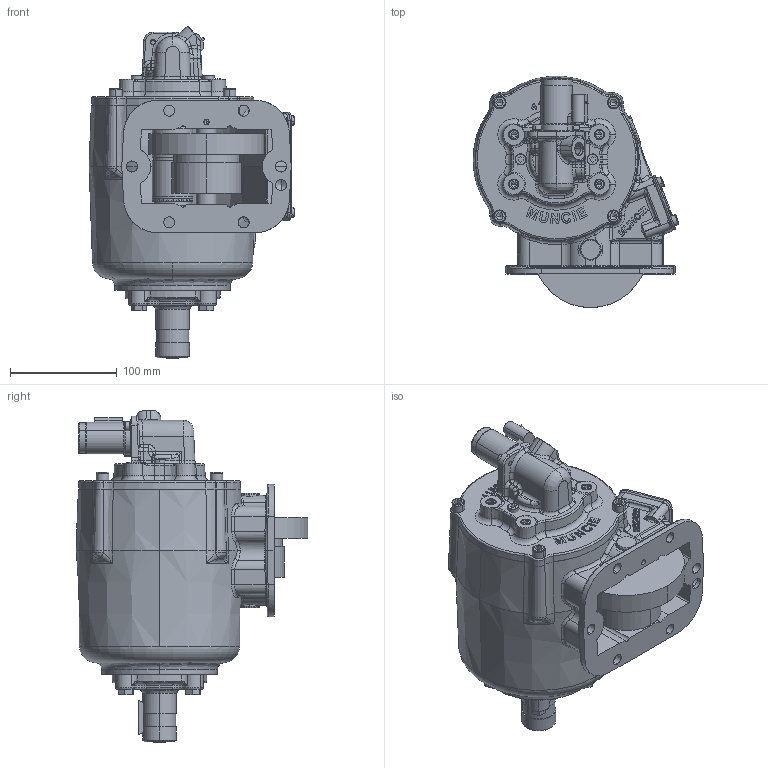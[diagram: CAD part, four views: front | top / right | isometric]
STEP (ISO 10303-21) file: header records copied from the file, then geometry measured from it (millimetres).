
FILE_DESCRIPTION (( 'STEP AP203' ), '1' );
FILE_NAME ('CS6S-A67XX-S1BP.STEP', '2015-04-24T19:15:27', ( '' ), ( '' ), 'SwSTEP 2.0', 'SolidWorks 2015', '' );
FILE_SCHEMA (( 'CONFIG_CONTROL_DESIGN' ));
Length unit declared in the file: millimetre
Products named in the file (26): 06t36892; 25T21684; 19T35237; Input Gear abstract (CS6-CS8); 15T41597; 10T21017; 15T41683; 19T41969; Output Shaft Sub Assembly; 11T37790; 35T40860; 12T36751; 15TA5220_Config1; 19T40859; 28T36546; 01T37073; CS6S-A67XX-S1BP; 19T34717; 07T37071; 16T41119; 26T01627; 12T35949; 19T41118; 19T36082; 27T36173_Free Length; 12T34003
Assembly tree (44 placements, depth 3):
  CS6S-A67XX-S1BP
    01T37073
    16T41119
    19T41118  x4
    12T34003
    19T35237  x4
    Output Shaft Sub Assembly
      10T21017
    10T21017
    12T36751
    28T36546
    07T37071
    12T35949  x2
    27T36173_Free Length  x4
    25T21684  x2
    15T41597
    19T41969  x4
    35T40860
    19T40859  x2
    19T34717  x4
    26T01627
    19T36082
    06t36892
    Input Gear abstract (CS6-CS8)
    15TA5220_Config1
      15T41683
      11T37790
Bounding box: 192.82 x 216.75 x 311.1 mm (x, y, z)
Volume: 1808002.6 mm3; surface area: 500951.9 mm2
Topology: 42 solids, 42 shells, 2818 faces, 7109 edges, 4314 vertices
Faces by surface type: cylinder 747, plane 744, bspline 620, cone 358, torus 295, sphere 54
Entity records: 152964 total; most frequent: CARTESIAN_POINT 97667, ORIENTED_EDGE 11806, DIRECTION 9430, EDGE_CURVE 5903, AXIS2_PLACEMENT_3D 3740, VERTEX_POINT 3646, EDGE_LOOP 2577, ADVANCED_FACE 2378
